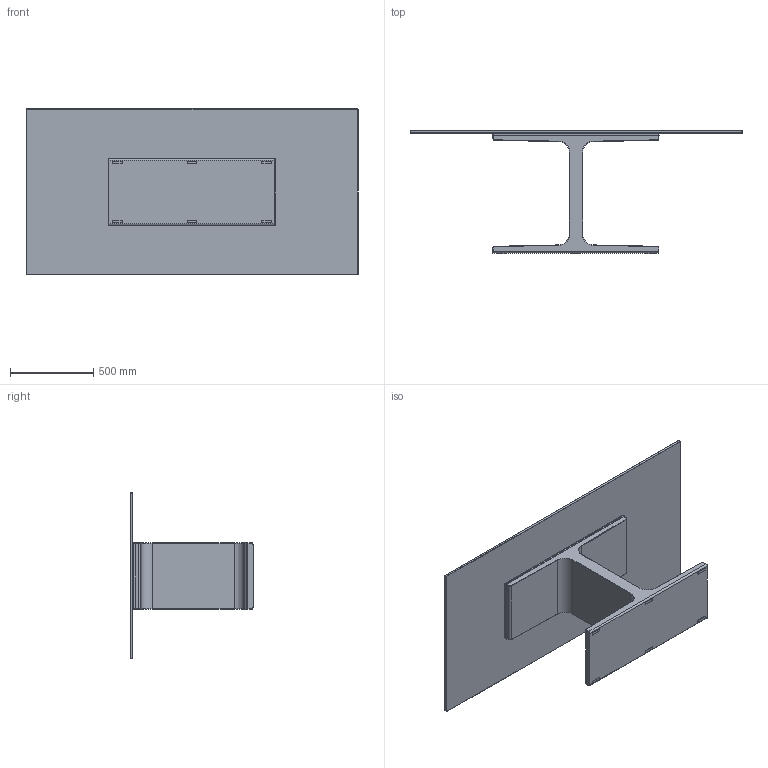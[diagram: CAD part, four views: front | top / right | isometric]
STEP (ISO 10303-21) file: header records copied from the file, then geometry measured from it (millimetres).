
FILE_DESCRIPTION((''),'2;1');
FILE_NAME('C:\AutodeskVault\AreaLavoro\Progetti\SoVeT Italia\1. Tavoli_Dining tables\Palace\Palace\Web file\Palace Web\P1564.stp','2012-04-27T17:30:34',('Gianluca'),('So.Ve.T. s.r.l.'),'Autodesk Inventor 2011','Autodesk Inventor 2011','IL PROGETTO E'' DI ESCLUSIVA PROPRIETA'' DELLA SO.VE.T. srl. E'' VIETATA OGNI RIPRODUZIONE TOTALE O PARZIALE EQUALSIASI UTILIZZO NON AUTORIZZATO.');
FILE_SCHEMA(('AUTOMOTIVE_DESIGN { 1 0 10303 214 1 1 1 1 }'));
Length unit declared in the file: millimetre
Products named in the file (1): P1564 Contorno semplificato
Bounding box: 2000 x 741 x 1000 mm (x, y, z)
Volume: 88307647.7 mm3; surface area: 6491830.1 mm2
Topology: 2 solids, 2 shells, 155 faces, 352 edges, 208 vertices
Faces by surface type: plane 79, cylinder 44, torus 16, cone 8, bspline 8
Entity records: 4655 total; most frequent: CARTESIAN_POINT 1004, DIRECTION 712, ORIENTED_EDGE 704, EDGE_CURVE 352, VECTOR 240, LINE 240, AXIS2_PLACEMENT_3D 236, VERTEX_POINT 208
